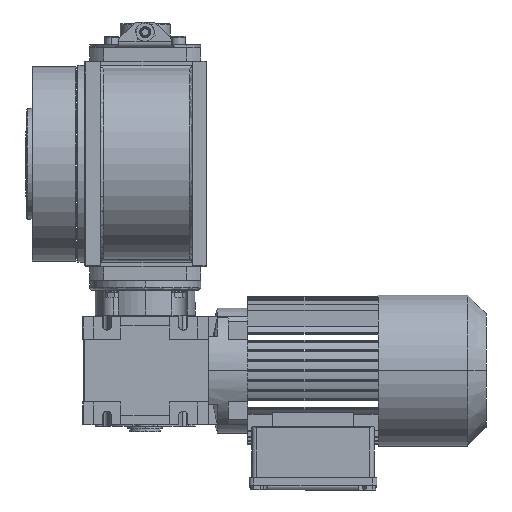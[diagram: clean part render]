
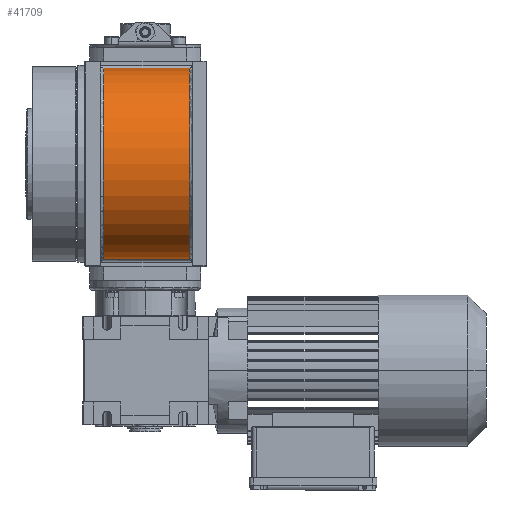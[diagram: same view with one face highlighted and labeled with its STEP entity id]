
A CAD part, left-side view. The second image highlights one B-rep face of the part: STEP entity #41709.
In plain terms, the highlighted cylindrical face has radius 69 mm (diameter 138 mm), a partial arc.
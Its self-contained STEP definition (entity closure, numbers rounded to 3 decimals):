
#208 = AXIS2_PLACEMENT_3D ( 'NONE', #11234, #39443, #50503 ) ;
#247 = LINE ( 'NONE', #67332, #27503 ) ;
#823 = VERTEX_POINT ( 'NONE', #45819 ) ;
#1958 = LINE ( 'NONE', #58070, #53895 ) ;
#5759 = AXIS2_PLACEMENT_3D ( 'NONE', #27439, #33669, #48762 ) ;
#6983 = ORIENTED_EDGE ( 'NONE', *, *, #49786, .T. ) ;
#8805 = FACE_OUTER_BOUND ( 'NONE', #10766, .T. ) ;
#9851 = CARTESIAN_POINT ( 'NONE',  ( -38.624, -53.238, 40.609 ) ) ;
#10766 = EDGE_LOOP ( 'NONE', ( #11862, #63646, #32161, #6983 ) ) ;
#11234 = CARTESIAN_POINT ( 'NONE',  ( -38.624, 8.762, 40.609 ) ) ;
#11862 = ORIENTED_EDGE ( 'NONE', *, *, #37352, .T. ) ;
#15249 = VERTEX_POINT ( 'NONE', #38275 ) ;
#17547 = CARTESIAN_POINT ( 'NONE',  ( -42.511, -53.238, -28.281 ) ) ;
#20661 = EDGE_CURVE ( 'NONE', #46814, #15249, #247, .T. ) ;
#25777 = EDGE_CURVE ( 'NONE', #15249, #823, #30612, .T. ) ;
#27439 = CARTESIAN_POINT ( 'NONE',  ( -38.624, 10.762, 40.609 ) ) ;
#27503 = VECTOR ( 'NONE', #44630, 1000. ) ;
#30612 = CIRCLE ( 'NONE', #208, 69. ) ;
#32161 = ORIENTED_EDGE ( 'NONE', *, *, #25777, .T. ) ;
#32185 = DIRECTION ( 'NONE',  ( 0., 1., 0. ) ) ;
#33669 = DIRECTION ( 'NONE',  ( 0., -1., 0. ) ) ;
#37352 = EDGE_CURVE ( 'NONE', #63798, #46814, #37662, .T. ) ;
#37662 = CIRCLE ( 'NONE', #47073, 69. ) ;
#38275 = CARTESIAN_POINT ( 'NONE',  ( -42.511, 8.762, 109.5 ) ) ;
#39443 = DIRECTION ( 'NONE',  ( 0., -1., 0. ) ) ;
#41709 = ADVANCED_FACE ( 'NONE', ( #8805 ), #64869, .T. ) ;
#44630 = DIRECTION ( 'NONE',  ( 0., 1., 0. ) ) ;
#45819 = CARTESIAN_POINT ( 'NONE',  ( -42.511, 8.762, -28.281 ) ) ;
#46814 = VERTEX_POINT ( 'NONE', #47394 ) ;
#47073 = AXIS2_PLACEMENT_3D ( 'NONE', #9851, #32185, #54624 ) ;
#47394 = CARTESIAN_POINT ( 'NONE',  ( -42.511, -53.238, 109.5 ) ) ;
#48762 = DIRECTION ( 'NONE',  ( 0., 0., -1. ) ) ;
#49786 = EDGE_CURVE ( 'NONE', #823, #63798, #1958, .T. ) ;
#50503 = DIRECTION ( 'NONE',  ( 0., 0., 1. ) ) ;
#53895 = VECTOR ( 'NONE', #62829, 1000. ) ;
#54624 = DIRECTION ( 'NONE',  ( 0., 0., 1. ) ) ;
#58070 = CARTESIAN_POINT ( 'NONE',  ( -42.511, 10.762, -28.281 ) ) ;
#62829 = DIRECTION ( 'NONE',  ( 0., -1., 0. ) ) ;
#63646 = ORIENTED_EDGE ( 'NONE', *, *, #20661, .T. ) ;
#63798 = VERTEX_POINT ( 'NONE', #17547 ) ;
#64869 = CYLINDRICAL_SURFACE ( 'NONE', #5759, 69. ) ;
#67332 = CARTESIAN_POINT ( 'NONE',  ( -42.511, 10.762, 109.5 ) ) ;
